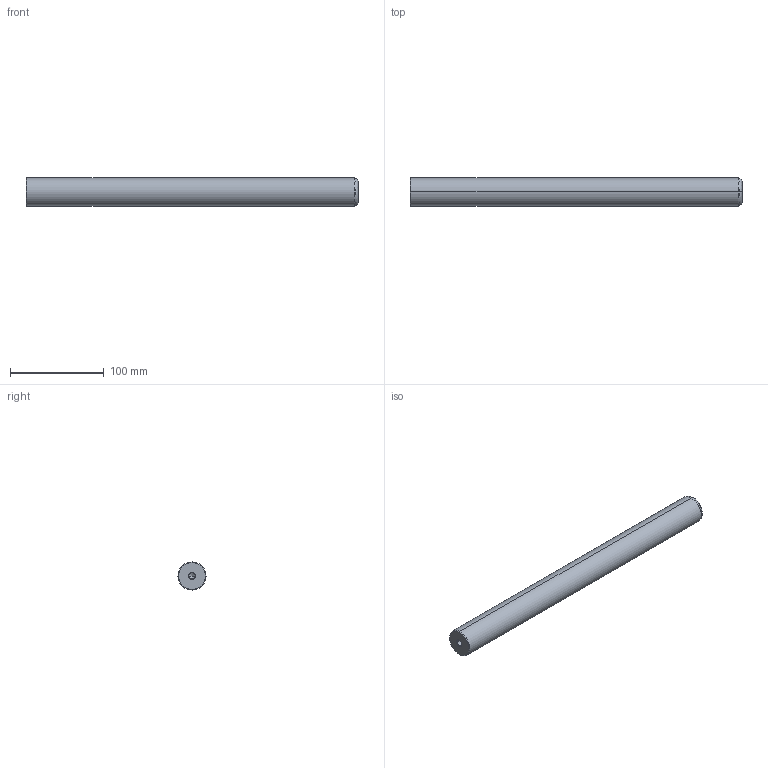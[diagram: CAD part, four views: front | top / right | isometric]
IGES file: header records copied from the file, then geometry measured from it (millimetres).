
Start section: START RECORD GO HERE.
Global section: file name: 720-30x355.igs; native system: DASSAULT SYSTEMES CATIA V5 R20 - www.3ds.com; preprocessor: CATIA Version 5 Release 20 ; author: Utente; organization: NB04-ASUS; date: 20210101.132755; units: millimetre
Bounding box: 355 x 30 x 30 mm (x, y, z)
Surface area: 35668.7 mm2 (no closed solid volume)
Topology: 0 solids, 0 shells, 22 faces, 120 edges, 116 vertices
Faces by surface type: revolution 20, plane 2
